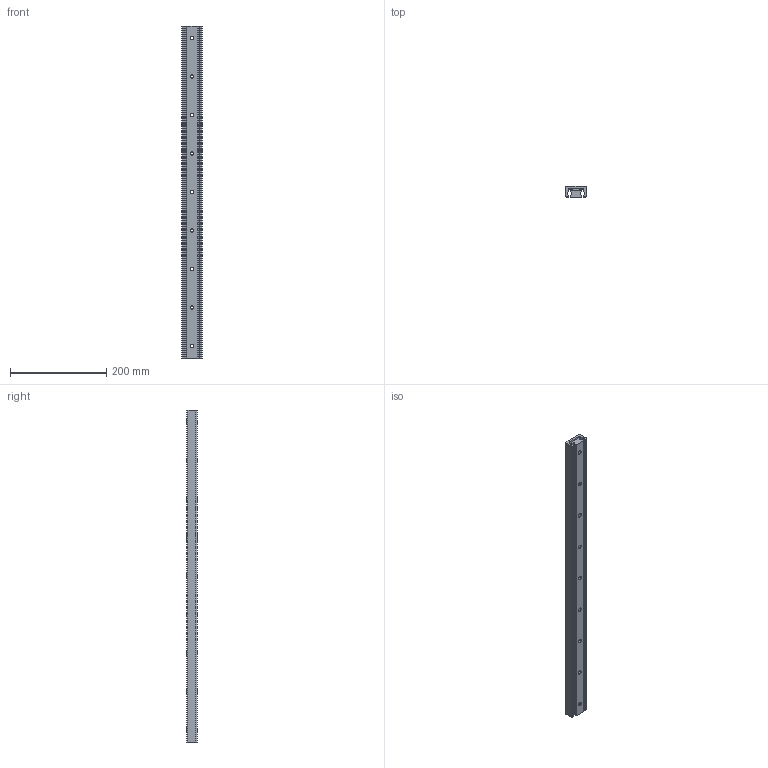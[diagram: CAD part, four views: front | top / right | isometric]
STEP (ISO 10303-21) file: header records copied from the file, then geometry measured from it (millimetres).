
FILE_DESCRIPTION(('STEP AP214'),'1');
FILE_NAME('rail_asn43-690_00.stp','2017-06-06T10:15:08',('TraceParts'),('TraceParts S.A.'),'Spatial InterOp 3D',' ',' ');
FILE_SCHEMA(('automotive_design'));
Length unit declared in the file: millimetre
Products named in the file (2): rail_asn43-690_00_1; rail_asn43-690_00_2
Bounding box: 43 x 22.01 x 690 mm (x, y, z)
Volume: 420059.6 mm3; surface area: 163290.4 mm2
Topology: 2 solids, 2 shells, 167 faces, 420 edges, 262 vertices
Faces by surface type: cylinder 67, cone 54, plane 46
Entity records: 5112 total; most frequent: DIRECTION 946, CARTESIAN_POINT 851, ORIENTED_EDGE 840, EDGE_CURVE 420, AXIS2_PLACEMENT_3D 357, VERTEX_POINT 262, LINE 232, VECTOR 232
